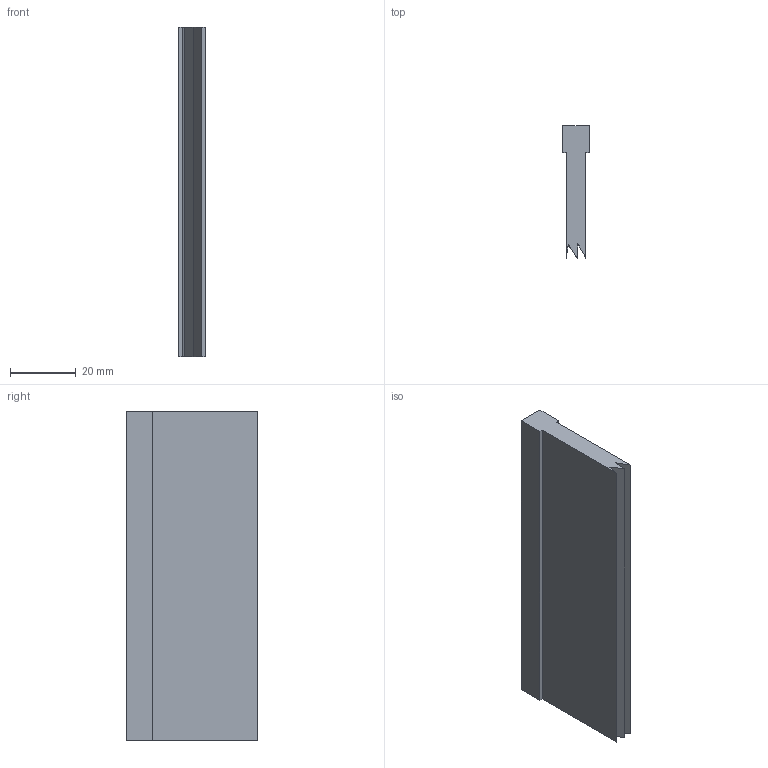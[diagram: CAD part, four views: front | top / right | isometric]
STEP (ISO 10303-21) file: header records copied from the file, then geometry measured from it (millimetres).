
FILE_DESCRIPTION(/* description */ ('BRUSH 40x8 MM'),/* implementation_level */ '2;1');
FILE_NAME(/* name */ '\\carryline.intra\privat\users\mathias\Desktop\Tillfälliga filer\300-3061.stp',/* time_stamp */ '2018-11-30T09:47:49+01:00',/* author */ ('MD'),/* organization */ ('CARRYLINE'),/* preprocessor_version */ 'ST-DEVELOPER v17',/* originating_system */ 'Autodesk Inventor 2018',/* authorisation */ '');
FILE_SCHEMA (('AUTOMOTIVE_DESIGN { 1 0 10303 214 3 1 1 }'));
Length unit declared in the file: millimetre
Products named in the file (1): 300-3061
Bounding box: 8 x 40 x 100 mm (x, y, z)
Volume: 24397.2 mm3; surface area: 11251 mm2
Topology: 1 solids, 1 shells, 13 faces, 33 edges, 22 vertices
Faces by surface type: plane 13
Entity records: 426 total; most frequent: CARTESIAN_POINT 69, ORIENTED_EDGE 66, DIRECTION 61, LINE 33, VECTOR 33, EDGE_CURVE 33, VERTEX_POINT 22, AXIS2_PLACEMENT_3D 14
